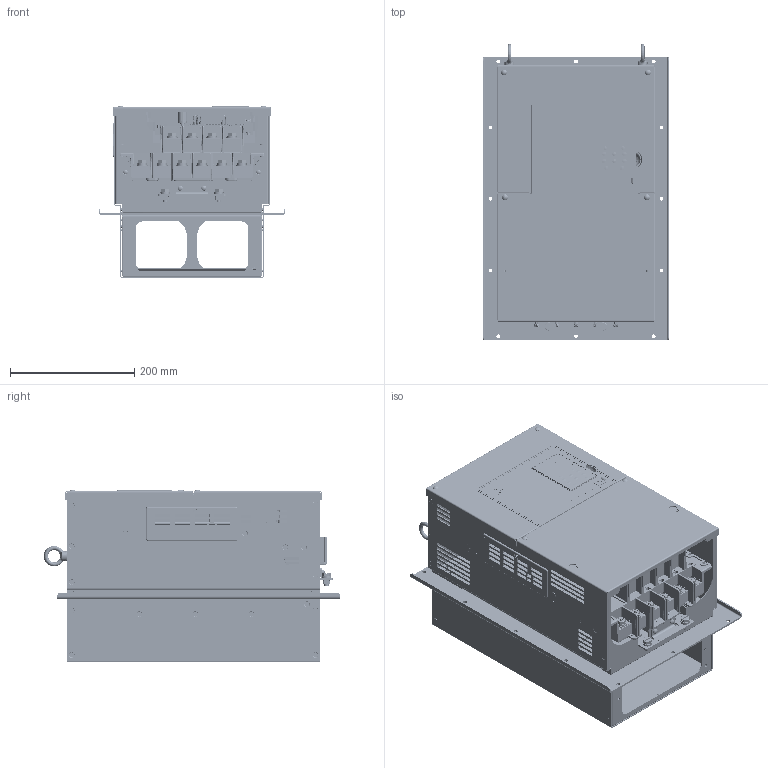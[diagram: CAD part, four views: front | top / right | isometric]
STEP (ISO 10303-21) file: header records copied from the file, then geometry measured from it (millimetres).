
FILE_DESCRIPTION((''),'2;1');
FILE_NAME('A1000_IP54R_FRAME_H_ASM','2011-12-23T',('jc'),('YASKAWA ELECTRIC CORCORATION'),'PRO/ENGINEER BY PARAMETRIC TECHNOLOGY CORPORATION, 2008490','PRO/ENGINEER BY PARAMETRIC TECHNOLOGY CORPORATION, 2008490','');
FILE_SCHEMA(('CONFIG_CONTROL_DESIGN'));
Length unit declared in the file: millimetre
Products named in the file (140): A1000_IP54R_FRAME_H1; A1000_IP54R_FRAME_H3; A1000_IP54R_FRAME_H5; A1000_IP54R_FRAME_H6; A1000_IP54R_FRAME_H4_ASM; A1000_IP54R_FRAME_H8_AF1; A1000_IP54R_FRAME_H7_ASM; A1000_IP54R_FRAME_H9; A1000_IP54R_FRAME_H10_AF1; A1000_IP54R_FRAME_H10_AF0; A1000_IP54R_FRAME_H10_AF3; A1000_IP54R_FRAME_H10_AF2; A1000_IP54R_FRAME_H10_AF5; A1000_IP54R_FRAME_H10_AF4; A1000_IP54R_FRAME_H10_AF7; A1000_IP54R_FRAME_H10_AF6; A1000_IP54R_FRAME_H10; A1000_IP54R_FRAME_H10_AF9; A1000_IP54R_FRAME_H10_AF8; A1000_IP54R_FRAME_H10_AF11; A1000_IP54R_FRAME_H10_AF10; A1000_IP54R_FRAME_H10_AF13; A1000_IP54R_FRAME_H2_ASM; A1000_IP54R_FRAME_H13; A1000_IP54R_FRAME_H12_ASM; A1000_IP54R_FRAME_H14; A1000_IP54R_FRAME_H11_ASM; A1000_IP54R_FRAME_H17; A1000_IP54R_FRAME_H18; A1000_IP54R_FRAME_H19; A1000_IP54R_FRAME_H20; A1000_IP54R_FRAME_H16_ASM; A1000_IP54R_FRAME_H21; A1000_IP54R_FRAME_H22; A1000_IP54R_FRAME_H15_ASM; A1000_IP54R_FRAME_H23; A1000_IP54R_FRAME_H25; A1000_IP54R_FRAME_H26; A1000_IP54R_FRAME_H28; A1000_IP54R_FRAME_H27_ASM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
Assembly tree (216 placements, depth 6):
  A1000_IP54R_FRAME_H_ASM
    A1000_IP54R_FRAME_H1
    A1000_IP54R_FRAME_H2_ASM
      A1000_IP54R_FRAME_H3
      A1000_IP54R_FRAME_H4_ASM
        A1000_IP54R_FRAME_H5
        A1000_IP54R_FRAME_H6  x3
      A1000_IP54R_FRAME_H7_ASM
        A1000_IP54R_FRAME_H8_AF1
        A1000_IP54R_FRAME_H6  x4
      A1000_IP54R_FRAME_H9
      A1000_IP54R_FRAME_H10_AF1
      A1000_IP54R_FRAME_H10_AF0
      A1000_IP54R_FRAME_H10_AF3
      A1000_IP54R_FRAME_H10_AF2
      A1000_IP54R_FRAME_H10_AF5
      A1000_IP54R_FRAME_H10_AF4
      A1000_IP54R_FRAME_H10_AF7
      A1000_IP54R_FRAME_H10_AF6
      A1000_IP54R_FRAME_H10  x12
      A1000_IP54R_FRAME_H10_AF9
      A1000_IP54R_FRAME_H10_AF8
      A1000_IP54R_FRAME_H10_AF11
      A1000_IP54R_FRAME_H10_AF10
      A1000_IP54R_FRAME_H10_AF13
    A1000_IP54R_FRAME_H11_ASM
      A1000_IP54R_FRAME_H12_ASM
        A1000_IP54R_FRAME_H13
        A1000_IP54R_FRAME_H6  x2
      A1000_IP54R_FRAME_H14
    A1000_IP54R_FRAME_H15_ASM
      A1000_IP54R_FRAME_H16_ASM
        A1000_IP54R_FRAME_H17
        A1000_IP54R_FRAME_H18
        A1000_IP54R_FRAME_H19
        A1000_IP54R_FRAME_H20  x4
      A1000_IP54R_FRAME_H21
      A1000_IP54R_FRAME_H22
    A1000_IP54R_FRAME_H23  x3
    A1000_IP54R_FRAME_H24_ASM
      A1000_IP54R_FRAME_H25
      A1000_IP54R_FRAME_H26
      A1000_IP54R_FRAME_H27_ASM
        A1000_IP54R_FRAME_H28
      A1000_IP54R_FRAME_H29_ASM
        A1000_IP54R_FRAME_H30
        A1000_IP54R_FRAME_H31  x2
      A1000_IP54R_FRAME_H32
      A1000_IP54R_FRAME_H33
      A1000_IP54R_FRAME_H34  x4
      A1000_IP54R_FRAME_H35_AF1
      A1000_IP54R_FRAME_H35_AF0
      A1000_IP54R_FRAME_H35_AF3
      A1000_IP54R_FRAME_H35_AF2
      A1000_IP54R_FRAME_H35  x8
      A1000_IP54R_FRAME_H35_AF5
      A1000_IP54R_FRAME_H35_AF4
      A1000_IP54R_FRAME_H35_AF7
      A1000_IP54R_FRAME_H35_AF6
      A1000_IP54R_FRAME_H35_AF9
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Bounding box: 300 x 477.1 x 277.94 mm (x, y, z)
Volume: 2613724.3 mm3; surface area: 2074366.8 mm2
Topology: 245 solids, 247 shells, 13180 faces, 33168 edges, 20770 vertices
Faces by surface type: plane 8016, cylinder 3271, bspline 737, cone 700, sphere 249, torus 200, extrusion 7
Entity records: 397043 total; most frequent: CARTESIAN_POINT 111696, ORIENTED_EDGE 59780, DIRECTION 56527, EDGE_CURVE 29890, VECTOR 21933, LINE 21926, VERTEX_POINT 18818, AXIS2_PLACEMENT_3D 17297
